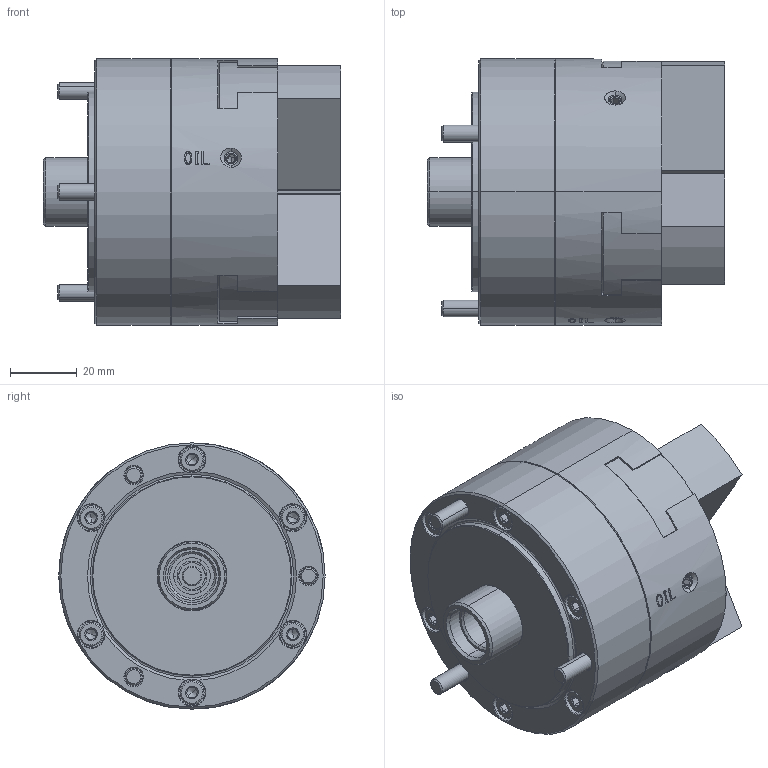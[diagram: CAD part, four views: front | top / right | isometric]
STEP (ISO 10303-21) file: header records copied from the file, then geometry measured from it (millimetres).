
FILE_DESCRIPTION (( 'STEP AP214' ), '1' );
FILE_NAME ('DEV-KPC803C100-OUUTSIDE_VIEW_HCL.STEP', '2023-12-21T06:02:07', ( '' ), ( '' ), 'SwSTEP 2.0', 'SolidWorks 2022', '' );
FILE_SCHEMA (( 'AUTOMOTIVE_DESIGN' ));
Length unit declared in the file: millimetre
Products named in the file (7): Copy of 61P418231^DEV-KPC803C100-クミタテ; Part1^DEV-KPC803C100-クミタテ; DEV-KPC803C100-OUUTSIDE_VIEW_HCL; Copy of 61P315009^DEV-KPC803C100-クミタテ; Copy of 0030105016^DEV-KPC803C100-クミタテ; Copy of 0030105060^DEV-KPC803C100-クミタテ; Copy of 0284210012^DEV-KPC803C100-クミタテ
Assembly tree (17 placements, depth 2):
  DEV-KPC803C100-OUUTSIDE_VIEW_HCL
    Copy of 61P315009^DEV-KPC803C100-クミタテ  x3
    Copy of 61P418231^DEV-KPC803C100-クミタテ
    Copy of 0030105060^DEV-KPC803C100-クミタテ  x3
    Copy of 0030105016^DEV-KPC803C100-クミタテ  x3
    Copy of 0284210012^DEV-KPC803C100-クミタテ  x6
    Part1^DEV-KPC803C100-クミタテ
Bounding box: 89.45 x 80 x 80 mm (x, y, z)
Volume: 312873.5 mm3; surface area: 55522.6 mm2
Topology: 19 solids, 22 shells, 1527 faces, 3863 edges, 2464 vertices
Faces by surface type: plane 711, cone 300, cylinder 264, bspline 228, torus 24
Entity records: 49914 total; most frequent: CARTESIAN_POINT 18266, ORIENTED_EDGE 6870, DIRECTION 5650, EDGE_CURVE 3435, VERTEX_POINT 2224, LINE 1966, VECTOR 1966, AXIS2_PLACEMENT_3D 1842
